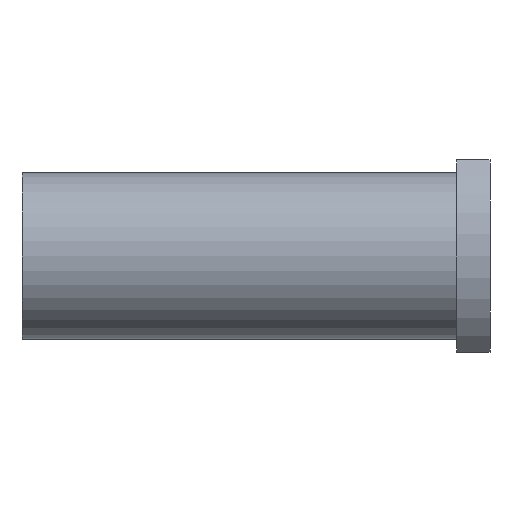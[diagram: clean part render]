
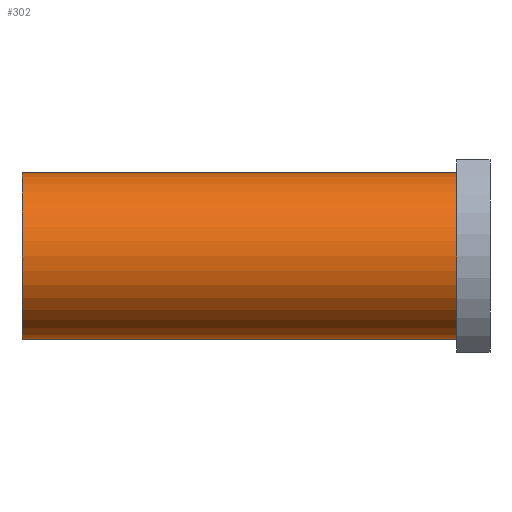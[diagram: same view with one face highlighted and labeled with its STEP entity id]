
A CAD part, front view. The second image highlights one B-rep face of the part: STEP entity #302.
In plain terms, the highlighted cylindrical face has radius 20 mm (diameter 40 mm), a full revolution.
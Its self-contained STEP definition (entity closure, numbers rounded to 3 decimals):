
#37=CYLINDRICAL_SURFACE('',#346,20.);
#60=ORIENTED_EDGE('',*,*,#124,.T.);
#61=ORIENTED_EDGE('',*,*,#125,.F.);
#124=EDGE_CURVE('',#156,#156,#182,.T.);
#125=EDGE_CURVE('',#157,#157,#183,.T.);
#156=VERTEX_POINT('',#508);
#157=VERTEX_POINT('',#510);
#182=CIRCLE('',#347,20.);
#183=CIRCLE('',#348,20.);
#205=EDGE_LOOP('',(#60));
#206=EDGE_LOOP('',(#61));
#251=FACE_BOUND('',#205,.T.);
#252=FACE_BOUND('',#206,.T.);
#302=ADVANCED_FACE('',(#251,#252),#37,.T.);
#346=AXIS2_PLACEMENT_3D('',#506,#410,#411);
#347=AXIS2_PLACEMENT_3D('',#507,#412,#413);
#348=AXIS2_PLACEMENT_3D('',#509,#414,#415);
#410=DIRECTION('',(-1.,0.,0.));
#411=DIRECTION('',(0.,0.,1.));
#412=DIRECTION('',(1.,0.,0.));
#413=DIRECTION('',(0.,0.,-1.));
#414=DIRECTION('',(1.,0.,0.));
#415=DIRECTION('',(0.,0.,-1.));
#506=CARTESIAN_POINT('',(56.,0.,0.));
#507=CARTESIAN_POINT('',(-56.,0.,0.));
#508=CARTESIAN_POINT('',(-56.,0.,-20.));
#509=CARTESIAN_POINT('',(48.,0.,0.));
#510=CARTESIAN_POINT('',(48.,0.,-20.));
